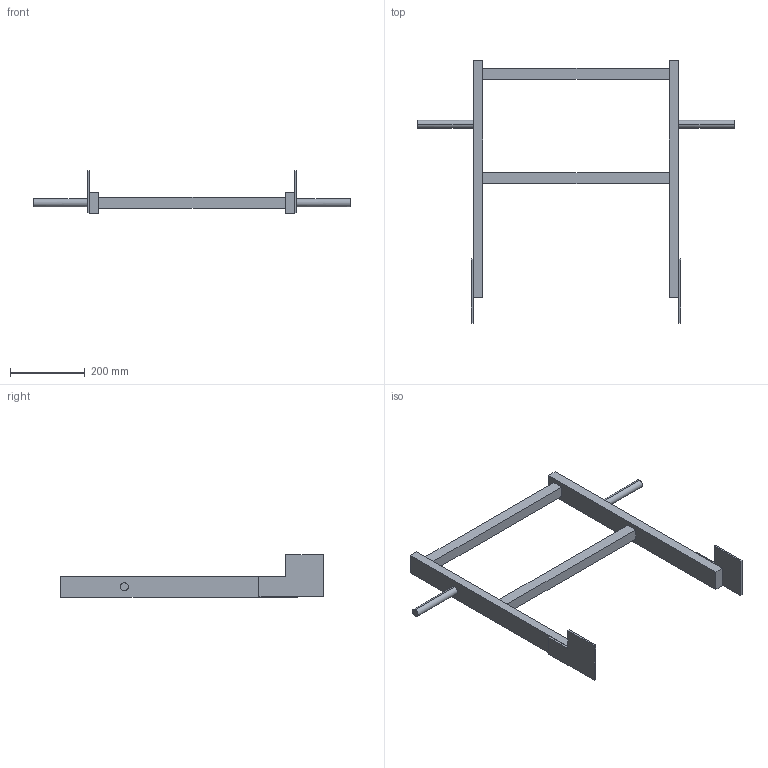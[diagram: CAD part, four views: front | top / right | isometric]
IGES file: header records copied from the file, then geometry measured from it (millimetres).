
Start section:  PTC IGES file: 52331036.igs
Global section: file name: 52331036.igs; native system: Creo Parametric by PTC Inc.; preprocessor: 2022162; author: wep; organization: Unknown; date: 20241218.082647; units: millimetre
Bounding box: 850 x 703 x 115 mm (x, y, z)
Surface area: 394354.8 mm2 (no closed solid volume)
Topology: 0 solids, 0 shells, 42 faces, 208 edges, 208 vertices
Faces by surface type: bspline 38, revolution 4
